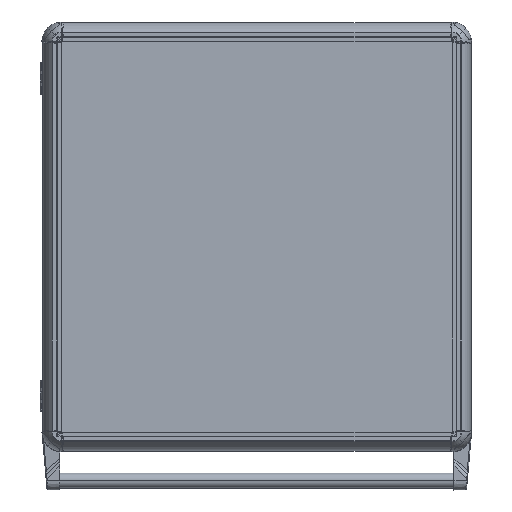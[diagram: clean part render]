
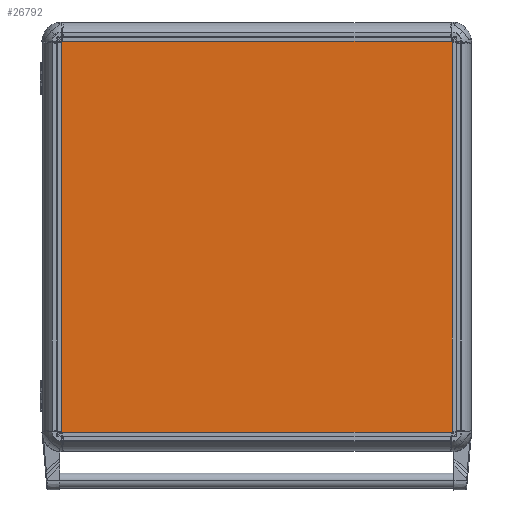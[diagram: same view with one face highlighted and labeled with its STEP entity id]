
A CAD part, top view. The second image highlights one B-rep face of the part: STEP entity #26792.
In plain terms, the highlighted planar face has unit normal (0, 0, 1).
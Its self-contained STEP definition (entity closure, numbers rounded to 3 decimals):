
#3979 = EDGE_LOOP ( 'NONE', ( #136632, #248575, #24849, #4373 ) ) ;
#4373 = ORIENTED_EDGE ( 'NONE', *, *, #218227, .T. ) ;
#20250 = DIRECTION ( 'NONE',  ( 0., -1., 0. ) ) ;
#24849 = ORIENTED_EDGE ( 'NONE', *, *, #246598, .T. ) ;
#25282 = CARTESIAN_POINT ( 'NONE',  ( -250., 250., 2. ) ) ;
#26400 = CARTESIAN_POINT ( 'NONE',  ( 250., 250., 2. ) ) ;
#26792 = ADVANCED_FACE ( 'NONE', ( #243179 ), #245863, .T. ) ;
#38091 = DIRECTION ( 'NONE',  ( 0., 0., 1. ) ) ;
#41645 = LINE ( 'NONE', #25282, #65321 ) ;
#51147 = VERTEX_POINT ( 'NONE', #61959 ) ;
#55547 = AXIS2_PLACEMENT_3D ( 'NONE', #224128, #38091, #205016 ) ;
#61959 = CARTESIAN_POINT ( 'NONE',  ( -250., -250., 2. ) ) ;
#62121 = LINE ( 'NONE', #263172, #119436 ) ;
#65321 = VECTOR ( 'NONE', #124435, 1000. ) ;
#67933 = CARTESIAN_POINT ( 'NONE',  ( -250., 250., 2. ) ) ;
#79785 = DIRECTION ( 'NONE',  ( 1., 0., 0. ) ) ;
#119436 = VECTOR ( 'NONE', #79785, 1000. ) ;
#123393 = CARTESIAN_POINT ( 'NONE',  ( -250., 250., 2. ) ) ;
#124435 = DIRECTION ( 'NONE',  ( -1., 0., 0. ) ) ;
#127420 = LINE ( 'NONE', #123393, #157100 ) ;
#131878 = VERTEX_POINT ( 'NONE', #67933 ) ;
#134699 = VECTOR ( 'NONE', #187930, 1000. ) ;
#136632 = ORIENTED_EDGE ( 'NONE', *, *, #258611, .T. ) ;
#141924 = EDGE_CURVE ( 'NONE', #186153, #131878, #41645, .T. ) ;
#156498 = CARTESIAN_POINT ( 'NONE',  ( 250., -250., 2. ) ) ;
#157100 = VECTOR ( 'NONE', #20250, 1000. ) ;
#163489 = CARTESIAN_POINT ( 'NONE',  ( 250., 250., 2. ) ) ;
#186153 = VERTEX_POINT ( 'NONE', #163489 ) ;
#187930 = DIRECTION ( 'NONE',  ( 0., 1., 0. ) ) ;
#205016 = DIRECTION ( 'NONE',  ( 1., 0., 0. ) ) ;
#218227 = EDGE_CURVE ( 'NONE', #51147, #231292, #62121, .T. ) ;
#224128 = CARTESIAN_POINT ( 'NONE',  ( 0., 0., 2. ) ) ;
#231292 = VERTEX_POINT ( 'NONE', #156498 ) ;
#243179 = FACE_OUTER_BOUND ( 'NONE', #3979, .T. ) ;
#245863 = PLANE ( 'NONE',  #55547 ) ;
#246598 = EDGE_CURVE ( 'NONE', #131878, #51147, #127420, .T. ) ;
#248575 = ORIENTED_EDGE ( 'NONE', *, *, #141924, .T. ) ;
#249216 = LINE ( 'NONE', #26400, #134699 ) ;
#258611 = EDGE_CURVE ( 'NONE', #231292, #186153, #249216, .T. ) ;
#263172 = CARTESIAN_POINT ( 'NONE',  ( -250., -250., 2. ) ) ;
